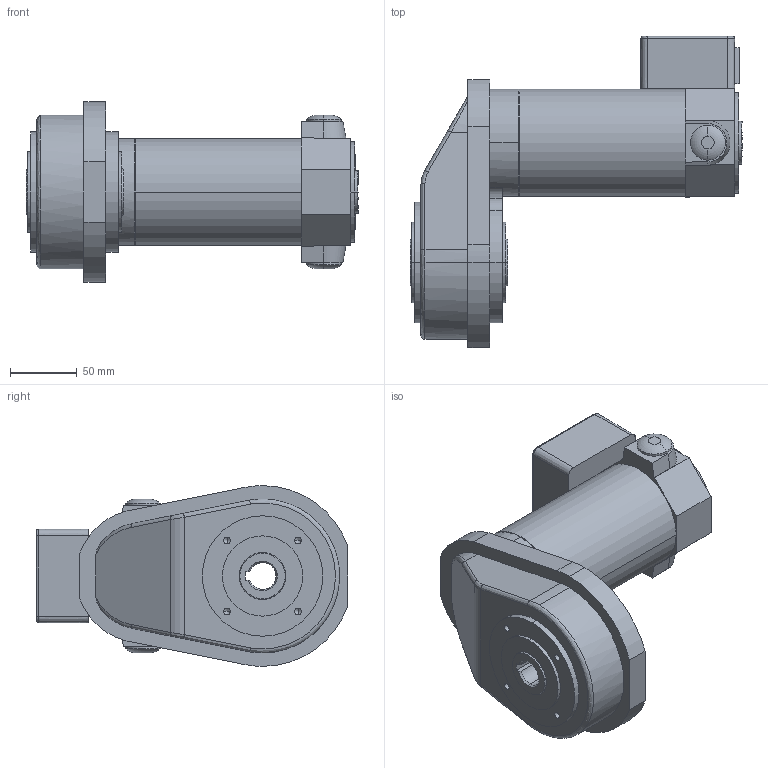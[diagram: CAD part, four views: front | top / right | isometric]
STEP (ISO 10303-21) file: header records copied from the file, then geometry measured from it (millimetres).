
FILE_DESCRIPTION(('OneSpaceDesigner STEP Export'),'2;1');
FILE_NAME('EPG13_KK_FB30.stp','2010-04-13T10:59:52',(''),(''),'OneSpace Designer STEP processor (Jan. 2003) for AP214(CD)(Solid Model)','OneSpace Designer 12.01D 09-Jul-2004 (C) CoCreate Software GmbH','');
FILE_SCHEMA(('AUTOMOTIVE_DESIGN_CC2 {1 2 10303 214 -1 1 5 1}'));
Length unit declared in the file: millimetre
Products named in the file (2): EPG13_KK_FB30
Assembly tree (1 placements, depth 2):
  EPG13_KK_FB30
    EPG13_KK_FB30
Bounding box: 248 x 232.51 x 135 mm (x, y, z)
Volume: 2104978.9 mm3; surface area: 145325 mm2
Topology: 1 solids, 1 shells, 194 faces, 466 edges, 288 vertices
Faces by surface type: cylinder 80, plane 59, cone 28, bspline 19, torus 4, extrusion 4
Entity records: 9209 total; most frequent: CARTESIAN_POINT 5242, ORIENTED_EDGE 900, DIRECTION 618, EDGE_CURVE 450, VERTEX_POINT 288, EDGE_LOOP 226, VECTOR 212, LINE 208
